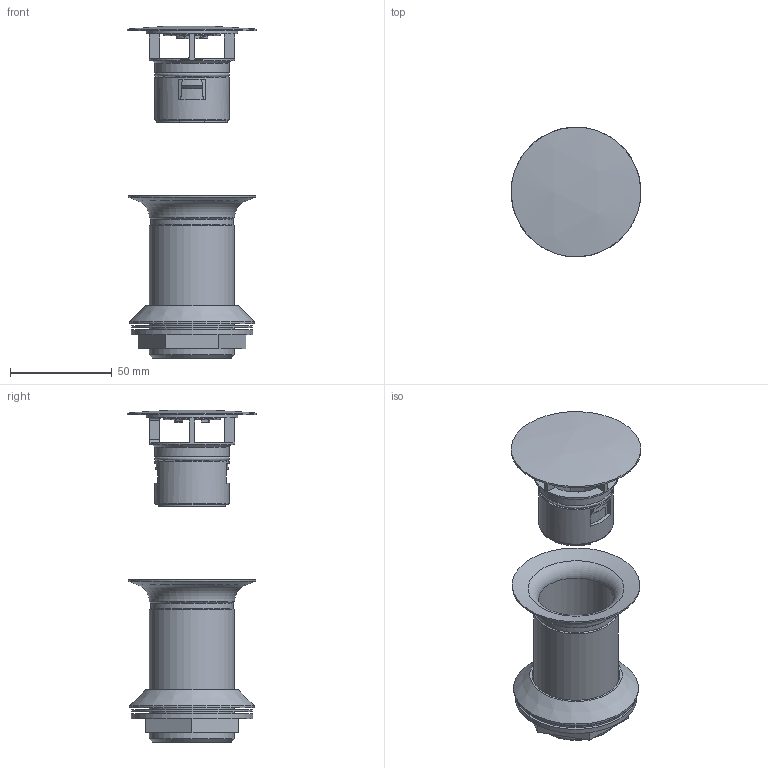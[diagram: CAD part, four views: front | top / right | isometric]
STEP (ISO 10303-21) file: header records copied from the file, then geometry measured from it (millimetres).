
FILE_DESCRIPTION(/* description */ (''),/* implementation_level */ '2;1');
FILE_NAME(/* name */ 'G:\WM_GmbH\Planerdaten\Work\EXPORT\Fertig zum Export\Ablaufventile\stp\152080.stp',/* time_stamp */ '2017-06-28T15:38:28+02:00',/* author */ ('seihe2'),/* organization */ (''),/* preprocessor_version */ 'ST-DEVELOPER v15.2',/* originating_system */ 'Autodesk Inventor 2014',/* authorisation */ '');
FILE_SCHEMA (('AUTOMOTIVE_DESIGN { 1 0 10303 214 3 1 1 }'));
Length unit declared in the file: millimetre
Products named in the file (1): 152080
Bounding box: 63.98 x 63.98 x 163.51 mm (x, y, z)
Volume: 59666.5 mm3; surface area: 60016.8 mm2
Topology: 8 solids, 8 shells, 238 faces, 660 edges, 424 vertices
Faces by surface type: plane 125, cone 70, cylinder 28, bspline 7, torus 5, sphere 3
Full cylindrical faces by diameter (mm): 33.7 x1, 36.6 x2, 37.05 x1, 40 x1, 40.6 x1, 41.91 x1, 42 x2, 43 x1, 59.5 x1, 59.7 x1, 61.5 x1, 63 x1
Entity records: 7772 total; most frequent: CARTESIAN_POINT 1686, DIRECTION 1222, ORIENTED_EDGE 1202, EDGE_CURVE 601, AXIS2_PLACEMENT_3D 495, VERTEX_POINT 404, EDGE_LOOP 307, STYLED_ITEM 246
